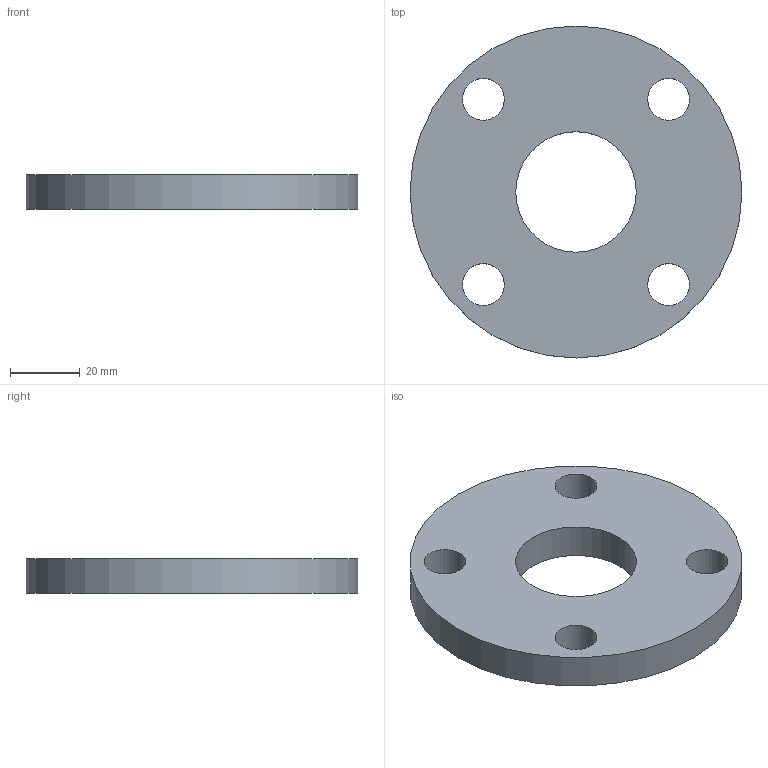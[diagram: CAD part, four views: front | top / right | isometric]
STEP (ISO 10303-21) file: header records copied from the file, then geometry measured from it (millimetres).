
FILE_DESCRIPTION(/* description */ (''),/* implementation_level */ '2;1');
FILE_NAME(/* name */ 'C:\Users\unitec\Documents\Inventor\HP\フランジ\5ksop\5ksop-25.stp',/* time_stamp */ '2016-03-16T15:22:53+09:00',/* author */ ('unitec'),/* organization */ (''),/* preprocessor_version */ 'ST-DEVELOPER v15.2',/* originating_system */ 'Autodesk Inventor 2014',/* authorisation */ '');
FILE_SCHEMA (('AUTOMOTIVE_DESIGN { 1 0 10303 214 3 1 1 }'));
Length unit declared in the file: millimetre
Products named in the file (1): 5ksop-25
Bounding box: 95 x 95 x 10 mm (x, y, z)
Volume: 57010.1 mm3; surface area: 16978.3 mm2
Topology: 1 solids, 1 shells, 8 faces, 18 edges, 12 vertices
Faces by surface type: cylinder 6, plane 2
Full cylindrical faces by diameter (mm): 12 x4, 34.5 x1, 95 x1
Entity records: 245 total; most frequent: DIRECTION 42, CARTESIAN_POINT 33, EDGE_LOOP 24, ORIENTED_EDGE 24, AXIS2_PLACEMENT_3D 21, FACE_BOUND 18, CIRCLE 12, VERTEX_POINT 12
